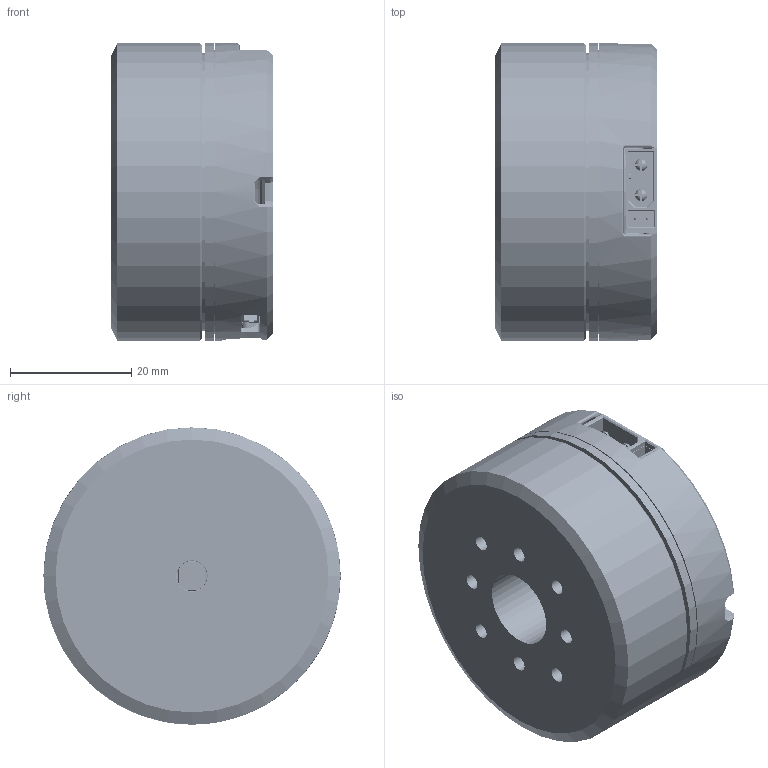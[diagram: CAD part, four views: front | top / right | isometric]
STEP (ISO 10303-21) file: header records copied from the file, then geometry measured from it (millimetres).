
FILE_DESCRIPTION(/* description */ (''),/* implementation_level */ '2;1');
FILE_NAME(/* name */ 'QD4310_V6.1.step',/* time_stamp */ '2026-04-11T00:29:05+08:00',/* author */ (''),/* organization */ (''),/* preprocessor_version */ 'ST-DEVELOPER v20.1',/* originating_system */ 'Autodesk Translation Framework v14.24.0.0',/* authorisation */ '');
FILE_SCHEMA (('AUTOMOTIVE_DESIGN { 1 0 10303 214 3 1 1 }'));
Products named in the file (202): QD4310; PM4310-3¿×°æÄ£ÐÍ-²
»´øºó¸Ç; 转子; 定子; PCB; Board; Open CASCADE STEP translator 7.5 2.1.1; C20; U8; TSSOP16; TSSOP16_ASM_1_AF0_ASM; TSSOP16_1_ASM_1_AF0_ASM; TSSOP16_00_1_AF0; _0_9_100_1; JP2; JP1; 3D Model; SH_1_0-LT-3P_ASM_1_AF0_ASM; ID20001_ASM_1_AF0_ASM_1_AF0_ASM; 3DID1_AF00001_ASM_1_AF0_ASM_1_ASM; LPATTERN3_11__1_AF0_1_1_1_2; LPATTERN3_7__1_3_1; LPATTERN3_2__1_3_1; LPATTERN3_6__1_AF0_3_1; EXTRUDE8_1_1_1; PIN_1_MARK_1_AF0_3_AF0_1; LPATTERN3_3__1_1_1; LPATTERN3_1__1_AF0_3_1; SH1_0-2L_ASM_1_AF0_ASM_1_AF0_ASM; ID0001_ASM_1_ASM_1_AF0_ASM_1_AF0_ASM; EXTRUDE7_1_1_1_1_AF0; PIN_1_MARK_AF0_1_1_AF0_1; L3; 1206; 1206-157_ASM; 1206-7095_ASM; 5_100; 4_100; _3_10001; D5 ...
Assembly tree (496 placements, depth 9):
  QD4310
    PM4310-3¿×°æÄ£ÐÍ-²
»´øºó¸Ç
      转子
      定子
    PCB
      Board
        Open CASCADE STEP translator 7.5 2.1.1
      C20
        C 0402
          C_0402-4045_AF0_ASM
            C_0402-672_AF0_ASM
              _1_10001
              3_1_A
              2_100
      U8
        TSSOP16
          TSSOP16_ASM_1_AF0_ASM
            TSSOP16_1_ASM_1_AF0_ASM
              _0_9_100_1  x16
              TSSOP16_00_1_AF0
      JP2
        3D Model
          SH_1_0-LT-3P_ASM_1_AF0_ASM
            ID20001_ASM_1_AF0_ASM_1_AF0_ASM
              3DID1_AF00001_ASM_1_AF0_ASM_1_ASM
                LPATTERN3_11__1_AF0_1_1_1_2
                LPATTERN3_7__1_3_1
                LPATTERN3_2__1_3_1
                LPATTERN3_6__1_AF0_3_1
                EXTRUDE8_1_1_1
                PIN_1_MARK_1_AF0_3_AF0_1
                LPATTERN3_3__1_1_1
                LPATTERN3_1__1_AF0_3_1
              SH1_0-2L_ASM_1_AF0_ASM_1_AF0_ASM
                ID0001_ASM_1_ASM_1_AF0_ASM_1_AF0_ASM
                  EXTRUDE7_1_1_1_1_AF0
                  PIN_1_MARK_AF0_1_1_AF0_1
      JP1
        3D Model
          SH_1_0-LT-3P_ASM_1_AF0_ASM
            ID20001_ASM_1_AF0_ASM_1_AF0_ASM
              3DID1_AF00001_ASM_1_AF0_ASM_1_ASM
                LPATTERN3_11__1_AF0_1_1_1_2
                LPATTERN3_7__1_3_1
                LPATTERN3_2__1_3_1
                LPATTERN3_6__1_AF0_3_1
                EXTRUDE8_1_1_1
                PIN_1_MARK_1_AF0_3_AF0_1
                LPATTERN3_3__1_1_1
                LPATTERN3_1__1_AF0_3_1
              SH1_0-2L_ASM_1_AF0_ASM_1_AF0_ASM
                ID0001_ASM_1_ASM_1_AF0_ASM_1_AF0_ASM
                  EXTRUDE7_1_1_1_1_AF0
                  PIN_1_MARK_AF0_1_1_AF0_1
      L3
        1206
          1206-157_ASM
            1206-7095_ASM
              5_100
              4_100
Bounding box: 26.67 x 49 x 49 mm (x, y, z)
Volume: 35430.5 mm3; surface area: 26993.5 mm2
Topology: 456 solids, 480 shells, 36543 faces, 95642 edges, 62650 vertices
Faces by surface type: plane 25685, bspline 7572, cylinder 2554, sphere 390, torus 328, cone 14
Full cylindrical faces by diameter (mm): 0.25 x9, 0.3 x1, 0.364 x2, 0.5 x3, 0.7 x1, 0.75 x2, 0.914 x2, 1.6 x7, 1.9 x2, 2.05 x4, 2.075 x4, 2.5 x4, 2.504 x4, 2.529 x8, 2.7 x1, 2.9 x4, 5 x1, 5.727 x4, 8.5 x1, 9.4 x1, 9.5 x1, 12.6 x2, 16.6 x1, 36 x1, 40 x1, 46 x1, 47 x2, 47.568 x1, 49 x3
Entity records: 482809 total; most frequent: CARTESIAN_POINT 157825, ORIENTED_EDGE 71408, DIRECTION 54144, EDGE_CURVE 35704, LINE 26722, VECTOR 26722, VERTEX_POINT 23532, EDGE_LOOP 14584
